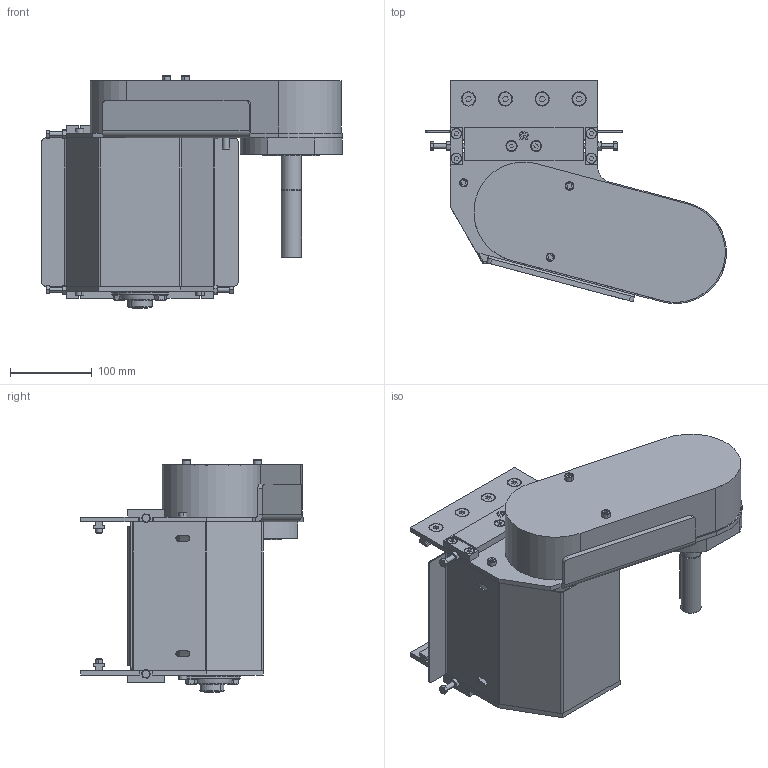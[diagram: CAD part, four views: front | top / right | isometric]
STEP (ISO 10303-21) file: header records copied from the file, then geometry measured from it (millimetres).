
FILE_DESCRIPTION (( 'STEP AP203' ), '1' );
FILE_NAME ('084.050.KCRD.49.150.STEP', '2019-07-29T13:57:43', ( '' ), ( '' ), 'SwSTEP 2.0', 'SolidWorks 2018', '' );
FILE_SCHEMA (( 'CONFIG_CONTROL_DESIGN' ));
Length unit declared in the file: millimetre
Products named in the file (38): 084.802.052; 084.813.008; 084.802.021; VITI TCEI UNI 5931_M6x70 UNI 5931; 084.802.012; VITI TCEI UNI 5931_M6x20 UNI 5931; circlip for shafts normal_din_PreviewCfg; RONDELLE UNI 6592_8.4x17 UNI 6592; CHIAVETTE_A 8x7x25 UNI 6604-69; 084.817.006; CUSCINETTI A SFERE_6004-2RS; 084.050.KCRD.49.150; 084.307.006; 084.809.006_Default<A macchina>; 084.802.003-1; 084.814.007; 084.802.011; 084.802.004-1; 084.817.005_Default<A macchina>; 084.821.009; VITI TSEI UNI 5933_M6x16 UNI 5933; 084.810.009; 084.817.007; 084.802.020; SBPFL 205; 084.817.008; VITI TE UNI 5739_M6x50 UNI 5739; VITI TE UNI 5739_M8x30 UNI 5739; DADI ESAGONALI NORMALI UNI 5588_M6 UNI 5588; VITI TSEI UNI 5933_M8x20 UNI 5933; 084.810.007; 084.802.049; 084.821.002; CUSCINETTI A SFERE_608-2RS; CHIAVETTE_A 8x7x70 UNI 6604-69; 084.810.003; VITI TE UNI 5739_M8x12 UNI 5739; 084.812.003
Assembly tree (90 placements, depth 3):
  084.050.KCRD.49.150
    084.821.009
    084.802.052  x2
    084.802.012  x2
    084.307.006  x2
    084.809.006_Default<A macchina>
    084.810.007
      084.810.009
      CUSCINETTI A SFERE_608-2RS  x3
      circlip for shafts normal_din_PreviewCfg
    084.814.007
    084.813.008
    084.821.002  x2
    084.802.021
    084.802.020
    084.802.049
    084.802.003-1
    084.802.004-1  x4
    084.802.011
    CHIAVETTE_A 8x7x70 UNI 6604-69
    CHIAVETTE_A 8x7x25 UNI 6604-69  x2
    CUSCINETTI A SFERE_6004-2RS  x4
    SBPFL 205
    VITI TCEI UNI 5931_M6x20 UNI 5931  x4
    VITI TE UNI 5739_M6x50 UNI 5739  x4
    DADI ESAGONALI NORMALI UNI 5588_M6 UNI 5588  x4
    VITI TCEI UNI 5931_M6x70 UNI 5931  x2
    RONDELLE UNI 6592_8.4x17 UNI 6592  x4
    VITI TE UNI 5739_M8x12 UNI 5739  x4
    VITI TSEI UNI 5933_M6x16 UNI 5933  x12
    VITI TSEI UNI 5933_M8x20 UNI 5933  x8
    VITI TE UNI 5739_M8x30 UNI 5739  x4
    084.810.003  x2
    084.817.006
    084.817.008  x2
    084.817.007  x2
    084.817.005_Default<A macchina>
    084.812.003
Bounding box: 367.47 x 272.33 x 284 mm (x, y, z)
Volume: 2464370.7 mm3; surface area: 1216358.3 mm2
Topology: 149 solids, 149 shells, 2985 faces, 7126 edges, 4564 vertices
Faces by surface type: plane 1440, cylinder 996, cone 417, torus 112, sphere 20
Entity records: 58918 total; most frequent: CARTESIAN_POINT 9812, DIRECTION 9616, ORIENTED_EDGE 8612, EDGE_CURVE 4306, AXIS2_PLACEMENT_3D 3542, VERTEX_POINT 2794, VECTOR 2532, LINE 2532
